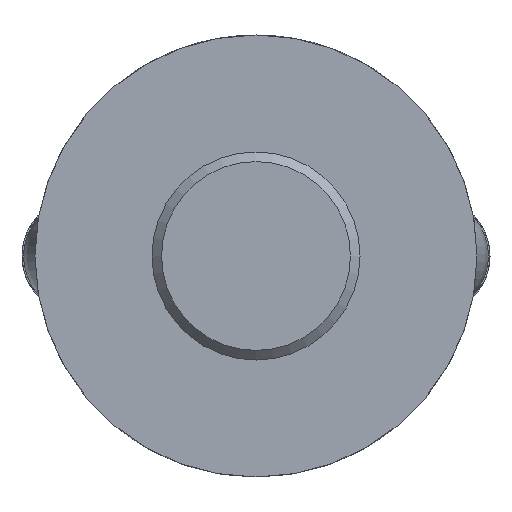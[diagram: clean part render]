
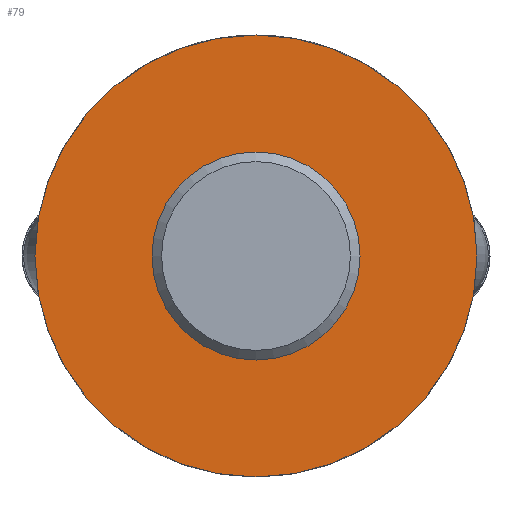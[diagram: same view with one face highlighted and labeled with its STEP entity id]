
A CAD part, front view. The second image highlights one B-rep face of the part: STEP entity #79.
In plain terms, the highlighted planar face has unit normal (0, -1, 0).
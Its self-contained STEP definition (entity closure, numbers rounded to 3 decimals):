
#79 = ADVANCED_FACE( '', ( #115, #116 ), #117, .F. );
#115 = FACE_BOUND( '', #186, .T. );
#116 = FACE_OUTER_BOUND( '', #187, .T. );
#117 = PLANE( '', #188 );
#186 = EDGE_LOOP( '', ( #276 ) );
#187 = EDGE_LOOP( '', ( #277 ) );
#188 = AXIS2_PLACEMENT_3D( '', #278, #279, #280 );
#276 = ORIENTED_EDGE( '', *, *, #464, .T. );
#277 = ORIENTED_EDGE( '', *, *, #465, .T. );
#278 = CARTESIAN_POINT( '', ( 85., 0., 0. ) );
#279 = DIRECTION( '', ( 0., 1., 0. ) );
#280 = DIRECTION( '', ( 0., 0., 1. ) );
#464 = EDGE_CURVE( '', #539, #539, #540, .T. );
#465 = EDGE_CURVE( '', #541, #541, #542, .T. );
#539 = VERTEX_POINT( '', #894 );
#540 = CIRCLE( '', #895, 40. );
#541 = VERTEX_POINT( '', #896 );
#542 = CIRCLE( '', #897, 85. );
#894 = CARTESIAN_POINT( '', ( 0., 0., 40. ) );
#895 = AXIS2_PLACEMENT_3D( '', #1251, #1252, #1253 );
#896 = CARTESIAN_POINT( '', ( 0., 0., -85. ) );
#897 = AXIS2_PLACEMENT_3D( '', #1254, #1255, #1256 );
#1251 = CARTESIAN_POINT( '', ( 0., 0., 0. ) );
#1252 = DIRECTION( '', ( 0., 1., 0. ) );
#1253 = DIRECTION( '', ( 0., 0., 1. ) );
#1254 = CARTESIAN_POINT( '', ( 0., 0., 0. ) );
#1255 = DIRECTION( '', ( 0., -1., 0. ) );
#1256 = DIRECTION( '', ( 0., 0., -1. ) );
